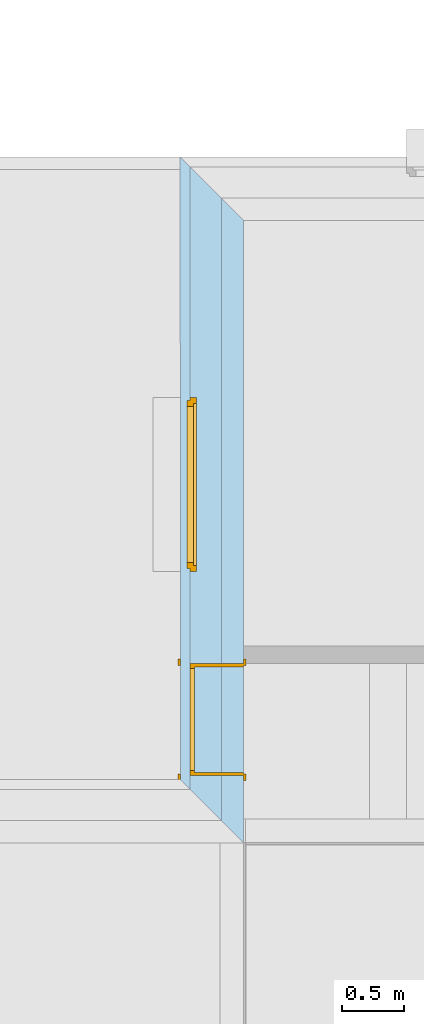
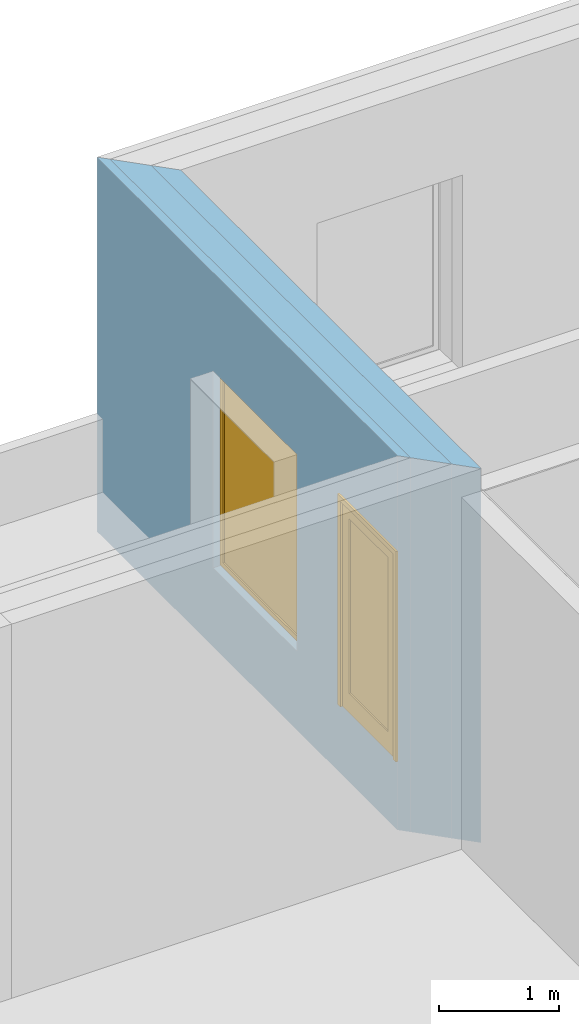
# One storey, part 60 of 100: 1 door, 1 window, 2 openings, 1 element without a shape of its own, plus 3 elements that do not belong to this part.
"""IFC2X3 building model written with IfcOpenShell, lengths in millimetres."""

from ifc_helpers import new_model, entity, si_unit, converted_unit, derived_unit, money_unit, direction, frame, origin_with_axes, origin_2d_with_axis, place, context, subcontext, project, spatial, polyline, rectangle, outline, extrude, open_shell, faceted_brep, surface_model, material, type_object, element, fill, aggregate, save


model = new_model("IFC2X3")

# Units and contexts
model_context = context("Model", 3, precision=0.01, world=origin_with_axes(), true_north=direction((0.0, 1.0)))
body_context = subcontext(model_context, "Body", "Model", "MODEL_VIEW")
ifc_project = project(units=[si_unit("LENGTHUNIT", "METRE", prefix="MILLI"), si_unit("AREAUNIT", "SQUARE_METRE"), si_unit("VOLUMEUNIT", "CUBIC_METRE"), converted_unit("PLANEANGLEUNIT", "DEGREE", entity("IfcPlaneAngleMeasure", 0.0174532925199), si_unit("PLANEANGLEUNIT", "RADIAN"), dimensions=[0, 0, 0, 0, 0, 0, 0]), si_unit("SOLIDANGLEUNIT", "STERADIAN"), money_unit("EUR"), converted_unit("TIMEUNIT", "Year", entity("IfcTimeMeasure", 31556926.0), si_unit("TIMEUNIT", "SECOND"), dimensions=[0, 0, 1, 0, 0, 0, 0]), si_unit("MASSUNIT", "GRAM", prefix="KILO"), si_unit("THERMODYNAMICTEMPERATUREUNIT", "DEGREE_CELSIUS"), si_unit("LUMINOUSINTENSITYUNIT", "LUMEN"), si_unit("ENERGYUNIT", "JOULE", prefix="MEGA"), derived_unit("THERMALCONDUCTANCEUNIT", [(si_unit("POWERUNIT", "WATT"), 1), (si_unit("LENGTHUNIT", "METRE"), -1), (si_unit("THERMODYNAMICTEMPERATUREUNIT", "KELVIN"), -1)]), derived_unit("SPECIFICHEATCAPACITYUNIT", [(si_unit("ENERGYUNIT", "JOULE"), 1), (si_unit("MASSUNIT", "GRAM", prefix="KILO"), -1), (si_unit("THERMODYNAMICTEMPERATUREUNIT", "KELVIN"), -1)]), derived_unit("MASSDENSITYUNIT", [(si_unit("MASSUNIT", "GRAM", prefix="KILO"), 1), (si_unit("VOLUMEUNIT", "CUBIC_METRE"), -1)])], contexts=[model_context])

# Site, building, storey
site_placement = place(None, origin_with_axes())
site = spatial("IfcSite", under=ifc_project, at=site_placement, Name="Politse- ja Piirivalveameti ning Päästeameti ühishoone", CompositionType="ELEMENT")
building_placement = place(site_placement, origin_with_axes())
building = spatial("IfcBuilding", under=site, at=building_placement, Name="Politse- ja Piirivalveameti ning Päästeameti ühishoone", CompositionType="ELEMENT")
storey_placement = place(building_placement, frame((0.0, 0.0, 3800.0), z_axis=(0.0, 0.0, 1.0), x_axis=(1.0, 0.0, 0.0)))
storey = spatial("IfcBuildingStorey", under=building, at=storey_placement, Name="Teine korrus", CompositionType="ELEMENT", Elevation=3800.0)

# Door
door_style = type_object("IfcDoorStyle", Name="Door 23", ConstructionType="NOTDEFINED", OperationType="SINGLE_SWING_LEFT", ParameterTakesPrecedence=False, Sizeable=False)
wall_placement = place(storey_placement, frame((16900.2594074, 16000.0244444, 0.0), z_axis=(0.0, 0.0, 1.0), x_axis=(-4.00006399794e-05, 0.9999999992, 0.0)))
opening_2_placement = place(wall_placement, frame((990.000000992, 0.0, 700.0), z_axis=(0.0, 0.0, 1.0), x_axis=(1.0, 0.0, 0.0)))
door_placement = place(opening_2_placement, frame((-450.0, 0.0, 0.0), z_axis=(0.0, 0.0, 1.0), x_axis=(1.0, 0.0, 0.0)))
door = element("IfcDoor", 1, at=door_placement, inside=storey, type_object=door_style, Name="VU-10", ObjectType="DOOR", OverallHeight=2100.0, OverallWidth=900.0, context=body_context, shape_type="SurfaceModel", body=[
    faceted_brep([(28.0, 470.0, 0.0), (40.0, 470.0, 0.0), (40.0, 470.0, 12.0), (28.0, 470.0, 12.0), (872.0, 470.0, 0.0), (860.0, 470.0, 0.0), (860.0, 395.0, 0.0), (40.0, 395.0, 0.0), (40.0, 395.0, 12.0), (860.0, 395.0, 12.0), (860.0, 470.0, 12.0), (872.0, 470.0, 12.0)], [[[0, 1, 2, 3]], [[0, 4, 5, 6, 7, 1]], [[1, 7, 8, 2]], [[3, 2, 8, 9, 10, 11]], [[4, 0, 3, 11]], [[5, 4, 11, 10]], [[6, 5, 10, 9]], [[7, 6, 9, 8]]]),
    faceted_brep([(900.0, 395.0, 0.0), (900.0, 0.0, 0.0), (875.0, 0.0, 0.0), (875.0, 395.0, 0.0), (900.0, 395.0, 2100.0), (900.0, 0.0, 2100.0), (875.0, 0.0, 2075.0), (875.0, 395.0, 2075.0)], [[[0, 1, 2, 3]], [[4, 5, 1, 0]], [[1, 5, 6, 2]], [[3, 2, 6, 7]], [[0, 3, 7, 4]], [[7, 6, 5, 4]]]),
    faceted_brep([(0.0, 395.0, 2100.0), (0.0, 0.0, 2100.0), (25.0, 0.0, 2075.0), (25.0, 395.0, 2075.0), (0.0, 395.0, 0.0), (0.0, 0.0, 0.0), (25.0, 0.0, 0.0), (25.0, 395.0, 0.0)], [[[0, 1, 2, 3]], [[4, 5, 1, 0]], [[1, 5, 6, 2]], [[3, 2, 6, 7]], [[0, 3, 7, 4]], [[7, 6, 5, 4]]]),
    faceted_brep([(875.0, 395.0, 2075.0), (875.0, 0.0, 2075.0), (25.0, 0.0, 2075.0), (25.0, 395.0, 2075.0), (900.0, 395.0, 2100.0), (900.0, 0.0, 2100.0), (0.0, 0.0, 2100.0), (0.0, 395.0, 2100.0)], [[[0, 1, 2, 3]], [[4, 5, 1, 0]], [[1, 5, 6, 2]], [[3, 2, 6, 7]], [[0, 3, 7, 4]], [[7, 6, 5, 4]]]),
    faceted_brep([(937.0, -19.0, 0.0), (887.0, -19.0, 0.0), (887.0, 0.0, 0.0), (937.0, 0.0, 0.0), (937.0, -19.0, 2137.0), (887.0, -19.0, 2087.0), (887.0, 0.0, 2087.0), (937.0, 0.0, 2137.0)], [[[0, 1, 2, 3]], [[0, 4, 5, 1]], [[1, 5, 6, 2]], [[3, 2, 6, 7]], [[4, 0, 3, 7]], [[5, 4, 7, 6]]]),
    faceted_brep([(-37.0, -19.0, 2137.0), (13.0, -19.0, 2087.0), (13.0, 0.0, 2087.0), (-37.0, 0.0, 2137.0), (-37.0, -19.0, 0.0), (13.0, -19.0, 0.0), (13.0, 0.0, 0.0), (-37.0, 0.0, 0.0)], [[[0, 1, 2, 3]], [[0, 4, 5, 1]], [[1, 5, 6, 2]], [[3, 2, 6, 7]], [[4, 0, 3, 7]], [[5, 4, 7, 6]]]),
    faceted_brep([(937.0, -19.0, 2137.0), (887.0, -19.0, 2087.0), (887.0, 0.0, 2087.0), (937.0, 0.0, 2137.0), (-37.0, -19.0, 2137.0), (13.0, -19.0, 2087.0), (13.0, 0.0, 2087.0), (-37.0, 0.0, 2137.0)], [[[0, 1, 2, 3]], [[0, 4, 5, 1]], [[1, 5, 6, 2]], [[3, 2, 6, 7]], [[4, 0, 3, 7]], [[5, 4, 7, 6]]]),
    faceted_brep([(937.0, 529.0, 0.0), (937.0, 510.0, 0.0), (887.0, 510.0, 0.0), (887.0, 529.0, 0.0), (937.0, 529.0, 2137.0), (937.0, 510.0, 2137.0), (887.0, 510.0, 2087.0), (887.0, 529.0, 2087.0)], [[[0, 1, 2, 3]], [[4, 5, 1, 0]], [[1, 5, 6, 2]], [[3, 2, 6, 7]], [[0, 3, 7, 4]], [[7, 6, 5, 4]]]),
    faceted_brep([(-37.0, 529.0, 2137.0), (-37.0, 510.0, 2137.0), (13.0, 510.0, 2087.0), (13.0, 529.0, 2087.0), (-37.0, 529.0, 0.0), (-37.0, 510.0, 0.0), (13.0, 510.0, 0.0), (13.0, 529.0, 0.0)], [[[0, 1, 2, 3]], [[4, 5, 1, 0]], [[1, 5, 6, 2]], [[3, 2, 6, 7]], [[0, 3, 7, 4]], [[7, 6, 5, 4]]]),
    faceted_brep([(937.0, 529.0, 2137.0), (937.0, 510.0, 2137.0), (887.0, 510.0, 2087.0), (887.0, 529.0, 2087.0), (-37.0, 529.0, 2137.0), (-37.0, 510.0, 2137.0), (13.0, 510.0, 2087.0), (13.0, 529.0, 2087.0)], [[[0, 1, 2, 3]], [[4, 5, 1, 0]], [[1, 5, 6, 2]], [[3, 2, 6, 7]], [[0, 3, 7, 4]], [[7, 6, 5, 4]]]),
    faceted_brep([(860.0, 470.0, 0.0), (860.0, 395.0, 0.0), (860.0, 395.0, 2060.0), (860.0, 470.0, 2060.0), (872.0, 470.0, 0.0), (872.0, 510.0, 0.0), (900.0, 510.0, 0.0), (900.0, 395.0, 0.0), (900.0, 395.0, 2060.0), (872.0, 470.0, 2060.0), (900.0, 510.0, 2060.0), (872.0, 510.0, 2060.0)], [[[0, 1, 2, 3]], [[4, 5, 6, 7, 1, 0]], [[1, 7, 8, 2]], [[9, 3, 2, 8, 10, 11]], [[9, 4, 0, 3]], [[11, 5, 4, 9]], [[11, 10, 6, 5]], [[6, 10, 8, 7]]]),
    faceted_brep([(28.0, 470.0, 2060.0), (28.0, 510.0, 2060.0), (0.0, 510.0, 2060.0), (0.0, 395.0, 2060.0), (40.0, 395.0, 2060.0), (40.0, 470.0, 2060.0), (28.0, 470.0, 0.0), (28.0, 510.0, 0.0), (0.0, 510.0, 0.0), (0.0, 395.0, 0.0), (40.0, 395.0, 0.0), (40.0, 470.0, 0.0)], [[[0, 1, 2, 3, 4, 5]], [[0, 6, 7, 1]], [[7, 8, 2, 1]], [[2, 8, 9, 3]], [[3, 9, 10, 4]], [[5, 4, 10, 11]], [[5, 11, 6, 0]], [[6, 11, 10, 9, 8, 7]]]),
    faceted_brep([(872.0, 510.0, 2072.0), (28.0, 510.0, 2072.0), (28.0, 510.0, 2060.0), (0.0, 510.0, 2060.0), (0.0, 510.0, 2100.0), (900.0, 510.0, 2100.0), (900.0, 510.0, 2060.0), (872.0, 510.0, 2060.0), (872.0, 470.0, 2072.0), (28.0, 470.0, 2072.0), (28.0, 470.0, 2060.0), (40.0, 470.0, 2060.0), (40.0, 395.0, 2060.0), (0.0, 395.0, 2060.0), (0.0, 395.0, 2100.0), (900.0, 395.0, 2100.0), (900.0, 395.0, 2060.0), (872.0, 470.0, 2060.0), (860.0, 395.0, 2060.0), (860.0, 470.0, 2060.0)], [[[0, 1, 2, 3, 4, 5, 6, 7]], [[0, 8, 9, 1]], [[1, 9, 10, 2]], [[10, 11, 12, 13, 3, 2]], [[4, 3, 13, 14]], [[5, 4, 14, 15]], [[6, 5, 15, 16]], [[17, 7, 6, 16, 18, 19]], [[7, 17, 8, 0]], [[10, 9, 8, 17, 19, 11]], [[19, 18, 12, 11]], [[12, 18, 16, 15, 14, 13]]]),
    faceted_brep([(28.0, 510.0, 200.0), (128.0, 510.0, 200.0), (128.0, 470.0, 200.0), (28.0, 470.0, 200.0), (28.0, 510.0, 1972.0), (128.0, 510.0, 1972.0), (128.0, 470.0, 1972.0), (28.0, 470.0, 1972.0)], [[[0, 1, 2, 3]], [[0, 4, 5, 1]], [[1, 5, 6, 2]], [[3, 2, 6, 7]], [[4, 0, 3, 7]], [[5, 4, 7, 6]]]),
    faceted_brep([(872.0, 510.0, 200.0), (872.0, 510.0, 1972.0), (872.0, 470.0, 1972.0), (872.0, 470.0, 200.0), (772.0, 510.0, 200.0), (772.0, 510.0, 1972.0), (772.0, 470.0, 1972.0), (772.0, 470.0, 200.0)], [[[0, 1, 2, 3]], [[0, 4, 5, 1]], [[1, 5, 6, 2]], [[3, 2, 6, 7]], [[4, 0, 3, 7]], [[5, 4, 7, 6]]]),
    faceted_brep([(28.0, 510.0, 0.0), (872.0, 510.0, 0.0), (872.0, 470.0, 0.0), (28.0, 470.0, 0.0), (28.0, 510.0, 200.0), (128.0, 510.0, 200.0), (772.0, 510.0, 200.0), (872.0, 510.0, 200.0), (872.0, 470.0, 200.0), (772.0, 470.0, 200.0), (128.0, 470.0, 200.0), (28.0, 470.0, 200.0)], [[[0, 1, 2, 3]], [[0, 4, 5, 6, 7, 1]], [[1, 7, 8, 2]], [[3, 2, 8, 9, 10, 11]], [[4, 0, 3, 11]], [[5, 4, 11, 10]], [[6, 5, 10, 9]], [[7, 6, 9, 8]]]),
    faceted_brep([(28.0, 510.0, 2072.0), (28.0, 510.0, 1972.0), (28.0, 470.0, 1972.0), (28.0, 470.0, 2072.0), (872.0, 510.0, 2072.0), (872.0, 510.0, 1972.0), (772.0, 510.0, 1972.0), (128.0, 510.0, 1972.0), (128.0, 470.0, 1972.0), (772.0, 470.0, 1972.0), (872.0, 470.0, 1972.0), (872.0, 470.0, 2072.0)], [[[0, 1, 2, 3]], [[0, 4, 5, 6, 7, 1]], [[1, 7, 8, 2]], [[3, 2, 8, 9, 10, 11]], [[4, 0, 3, 11]], [[5, 4, 11, 10]], [[6, 5, 10, 9]], [[7, 6, 9, 8]]]),
    surface_model("IfcShellBasedSurfaceModel", [(128.0, 496.0, 200.0), (128.0, 496.0, 1972.0), (772.0, 496.0, 1972.0), (772.0, 496.0, 200.0)], [open_shell([[[0, 1, 2, 3]]])]),
    surface_model("IfcShellBasedSurfaceModel", [(128.0, 484.0, 200.0), (772.0, 484.0, 200.0), (772.0, 484.0, 1972.0), (128.0, 484.0, 1972.0)], [open_shell([[[0, 1, 2, 3]]])]),
])

# Window
window_style = type_object("IfcWindowStyle", Name="Window 23", ConstructionType="NOTDEFINED", OperationType="SINGLE_PANEL", ParameterTakesPrecedence=False, Sizeable=False)
opening_1_placement = place(wall_placement, frame((2879.78039651, 0.0, 800.0), z_axis=(0.0, 0.0, 1.0), x_axis=(1.0, 0.0, 0.0)))
window_placement = place(opening_1_placement, frame((-700.0, 0.0, 0.0), z_axis=(0.0, 0.0, 1.0), x_axis=(1.0, 0.0, 0.0)))
window = element("IfcWindow", 2, at=window_placement, inside=storey, type_object=window_style, Name="A-02", ObjectType="WINDOW", OverallHeight=2000.0, OverallWidth=1400.0, context=body_context, shape_type="SurfaceModel", body=[
    faceted_brep([(25.0, 430.0, 1950.0), (0.0, 430.0, 1950.0), (0.0, 380.0, 1950.0), (50.0, 380.0, 1950.0), (50.0, 405.0, 1950.0), (25.0, 405.0, 1950.0), (25.0, 430.0, 50.0), (0.0, 430.0, 50.0), (0.0, 380.0, 50.0), (50.0, 380.0, 50.0), (50.0, 405.0, 50.0), (25.0, 405.0, 50.0)], [[[0, 1, 2, 3, 4, 5]], [[6, 7, 1, 0]], [[1, 7, 8, 2]], [[2, 8, 9, 3]], [[4, 3, 9, 10]], [[10, 11, 5, 4]], [[5, 11, 6, 0]], [[11, 10, 9, 8, 7, 6]]]),
    faceted_brep([(1350.0, 405.0, 1950.0), (1350.0, 380.0, 1950.0), (1400.0, 380.0, 1950.0), (1400.0, 430.0, 1950.0), (1375.0, 430.0, 1950.0), (1375.0, 405.0, 1950.0), (1350.0, 405.0, 50.0), (1350.0, 380.0, 50.0), (1400.0, 380.0, 50.0), (1400.0, 430.0, 50.0), (1375.0, 430.0, 50.0), (1375.0, 405.0, 50.0)], [[[0, 1, 2, 3, 4, 5]], [[6, 7, 1, 0]], [[8, 2, 1, 7]], [[9, 3, 2, 8]], [[4, 3, 9, 10]], [[10, 11, 5, 4]], [[5, 11, 6, 0]], [[11, 10, 9, 8, 7, 6]]]),
    faceted_brep([(1350.0, 405.0, 50.0), (1350.0, 380.0, 50.0), (1400.0, 380.0, 50.0), (1400.0, 430.0, 50.0), (1375.0, 430.0, 50.0), (1375.0, 405.0, 50.0), (50.0, 405.0, 50.0), (50.0, 380.0, 50.0), (0.0, 380.0, 50.0), (0.0, 380.0, 0.0), (1400.0, 380.0, 0.0), (1400.0, 430.0, 0.0), (25.0, 430.0, 25.0), (1375.0, 430.0, 25.0), (0.0, 430.0, 0.0), (0.0, 430.0, 50.0), (25.0, 430.0, 50.0), (1375.0, 405.0, 25.0), (25.0, 405.0, 25.0), (25.0, 405.0, 50.0)], [[[0, 1, 2, 3, 4, 5]], [[6, 7, 1, 0]], [[8, 9, 10, 2, 1, 7]], [[11, 3, 2, 10]], [[12, 13, 4, 3, 11, 14, 15, 16]], [[13, 17, 5, 4]], [[5, 17, 18, 19, 6, 0]], [[19, 16, 15, 8, 7, 6]], [[15, 14, 9, 8]], [[14, 11, 10, 9]], [[12, 18, 17, 13]], [[19, 18, 12, 16]]]),
    faceted_brep([(25.0, 430.0, 1950.0), (0.0, 430.0, 1950.0), (0.0, 430.0, 2000.0), (1400.0, 430.0, 2000.0), (1400.0, 430.0, 1950.0), (1375.0, 430.0, 1950.0), (1375.0, 430.0, 1975.0), (25.0, 430.0, 1975.0), (25.0, 405.0, 1950.0), (50.0, 405.0, 1950.0), (50.0, 380.0, 1950.0), (0.0, 380.0, 1950.0), (0.0, 380.0, 2000.0), (1400.0, 380.0, 2000.0), (1400.0, 380.0, 1950.0), (1375.0, 405.0, 1950.0), (1350.0, 380.0, 1950.0), (1350.0, 405.0, 1950.0), (1375.0, 405.0, 1975.0), (25.0, 405.0, 1975.0)], [[[0, 1, 2, 3, 4, 5, 6, 7]], [[8, 9, 10, 11, 1, 0]], [[2, 1, 11, 12]], [[3, 2, 12, 13]], [[4, 3, 13, 14]], [[15, 5, 4, 14, 16, 17]], [[5, 15, 18, 6]], [[6, 18, 19, 7]], [[7, 19, 8, 0]], [[17, 9, 8, 19, 18, 15]], [[17, 16, 10, 9]], [[14, 13, 12, 11, 10, 16]]]),
    faceted_brep([(75.0, 405.0, 1925.0), (75.0, 455.0, 1925.0), (25.0, 455.0, 1925.0), (25.0, 405.0, 1925.0), (75.0, 405.0, 75.0), (75.0, 455.0, 75.0), (25.0, 455.0, 75.0), (25.0, 405.0, 75.0)], [[[0, 1, 2, 3]], [[4, 5, 1, 0]], [[1, 5, 6, 2]], [[3, 2, 6, 7]], [[0, 3, 7, 4]], [[7, 6, 5, 4]]]),
    faceted_brep([(1325.0, 405.0, 75.0), (1325.0, 455.0, 75.0), (1375.0, 455.0, 75.0), (1375.0, 405.0, 75.0), (1325.0, 405.0, 1925.0), (1325.0, 455.0, 1925.0), (1375.0, 455.0, 1925.0), (1375.0, 405.0, 1925.0)], [[[0, 1, 2, 3]], [[4, 5, 1, 0]], [[1, 5, 6, 2]], [[3, 2, 6, 7]], [[0, 3, 7, 4]], [[7, 6, 5, 4]]]),
    faceted_brep([(1375.0, 405.0, 25.0), (1375.0, 455.0, 25.0), (1375.0, 455.0, 75.0), (1375.0, 405.0, 75.0), (25.0, 405.0, 25.0), (25.0, 455.0, 25.0), (25.0, 455.0, 75.0), (75.0, 455.0, 75.0), (1325.0, 455.0, 75.0), (1325.0, 405.0, 75.0), (75.0, 405.0, 75.0), (25.0, 405.0, 75.0)], [[[0, 1, 2, 3]], [[4, 5, 1, 0]], [[1, 5, 6, 7, 8, 2]], [[3, 2, 8, 9]], [[0, 3, 9, 10, 11, 4]], [[11, 6, 5, 4]], [[10, 7, 6, 11]], [[9, 8, 7, 10]]]),
    faceted_brep([(25.0, 405.0, 1975.0), (25.0, 455.0, 1975.0), (25.0, 455.0, 1925.0), (25.0, 405.0, 1925.0), (1375.0, 405.0, 1975.0), (1375.0, 455.0, 1975.0), (1375.0, 455.0, 1925.0), (1325.0, 455.0, 1925.0), (75.0, 455.0, 1925.0), (75.0, 405.0, 1925.0), (1325.0, 405.0, 1925.0), (1375.0, 405.0, 1925.0)], [[[0, 1, 2, 3]], [[4, 5, 1, 0]], [[1, 5, 6, 7, 8, 2]], [[3, 2, 8, 9]], [[0, 3, 9, 10, 11, 4]], [[11, 6, 5, 4]], [[10, 7, 6, 11]], [[9, 8, 7, 10]]]),
    surface_model("IfcShellBasedSurfaceModel", [(75.0, 420.0, 75.0), (1325.0, 420.0, 75.0), (1325.0, 420.0, 1925.0), (75.0, 420.0, 1925.0)], [open_shell([[[0, 1, 2, 3]]])]),
    surface_model("IfcShellBasedSurfaceModel", [(75.0, 440.0, 75.0), (75.0, 440.0, 1925.0), (1325.0, 440.0, 1925.0), (1325.0, 440.0, 75.0)], [open_shell([[[0, 1, 2, 3]]])]),
])

# Wall, opening
wall_type = type_object("IfcWallType", Name="VS-01_välissein 510", PredefinedType="NOTDEFINED")
wall = element("IfcWall", 3, at=wall_placement, inside=storey, type_object=wall_type, Name="VS-01")
opening_1 = element("IfcOpeningElement", 4, at=opening_1_placement, cuts=wall, Name="A-02", context=body_context, shape_type="SweptSolid", body=[
    extrude(rectangle(XDim=1400.0, YDim=2000.0, at=origin_2d_with_axis()), frame((0.0, 430.0, 1000.0), z_axis=(0.0, 1.0, 0.0), x_axis=(1.0, 0.0, 0.0)), (0.0, 0.0, -1.0), 940.0),
    extrude(rectangle(XDim=1400.0, YDim=2000.0, at=origin_2d_with_axis()), frame((0.0, 430.0, 1000.0), z_axis=(0.0, -1.0, 0.0), x_axis=(1.0, 0.0, 0.0)), (0.0, 0.0, -1.0), 590.0),
])

fill(opening_1, window)

# Opening
opening_2 = element("IfcOpeningElement", 5, at=opening_2_placement, cuts=wall, Name="VU-10", context=body_context, shape_type="SweptSolid", body=[
    extrude(rectangle(XDim=900.0, YDim=2100.0, at=origin_2d_with_axis()), frame((0.0, -510.0, 1050.0), z_axis=(0.0, -1.0, 0.0), x_axis=(-1.0, 0.0, 0.0)), (0.0, 0.0, -1.0), 1530.0),
    extrude(rectangle(XDim=974.0, YDim=2137.0, at=origin_2d_with_axis()), frame((0.0, 0.0, 1068.5), z_axis=(0.0, -1.0, 0.0), x_axis=(-1.0, 0.0, 0.0)), (0.0, 0.0, 1.0), 510.0),
    extrude(rectangle(XDim=974.0, YDim=2137.0, at=origin_2d_with_axis()), frame((0.0, 510.0, 1068.5), z_axis=(0.0, 1.0, 0.0), x_axis=(-1.0, 0.0, 0.0)), (0.0, 0.0, 1.0), 510.0),
])

fill(opening_2, door)

# Building element part
ifc_material_1 = material(Name="KON-04_Betoon - Konstuktsioon")
building_element_part_1_placement = place(wall_placement, origin_with_axes())
building_element_part_1 = element("IfcBuildingElementPart", 6, at=building_element_part_1_placement, material=ifc_material_1, Name="KON-04_Betoon - Konstuktsioon", context=body_context, shape_type="SweptSolid", body=[
    extrude(outline(polyline([(0.0, 0.0), (4999.92764277, 0.0), (5179.93483612, 180.0), (180.007200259, 180.0), (0.0, 0.0)])), origin_with_axes(), (0.0, 0.0, 1.0), 3800.0),
])

ifc_material_2 = material(Name="SOJ-06_Soojustus - Plastik Kõva")
building_element_part_2_placement = place(wall_placement, origin_with_axes())
building_element_part_2 = element("IfcBuildingElementPart", 7, at=building_element_part_2_placement, material=ifc_material_2, Name="SOJ-06_Soojustus - Plastik Kõva", context=body_context, shape_type="SweptSolid", body=[
    extrude(outline(polyline([(180.007200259, 180.0), (5179.93483612, 180.0), (5429.94482688, 430.0), (430.017200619, 430.0), (180.007200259, 180.0)])), origin_with_axes(), (0.0, 0.0, 1.0), 3800.0),
])

building_element_part_3_placement = place(wall_placement, origin_with_axes())
building_element_part_3 = element("IfcBuildingElementPart", 8, at=building_element_part_3_placement, material=ifc_material_1, Name="KON-04_Betoon - Konstuktsioon", context=body_context, shape_type="SweptSolid", body=[
    extrude(outline(polyline([(430.017200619, 430.0), (5429.94482688, 430.0), (5509.94802392, 510.0), (510.020400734, 510.0), (430.017200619, 430.0)])), origin_with_axes(), (0.0, 0.0, 1.0), 3800.0),
])

aggregate(wall, [building_element_part_1, building_element_part_2, building_element_part_3])

save(model, "model.ifc")
